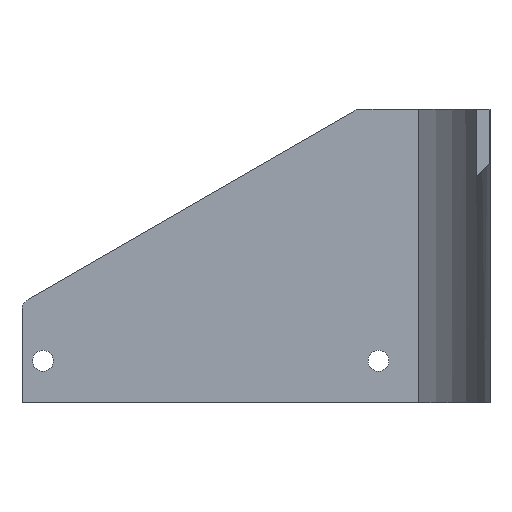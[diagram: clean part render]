
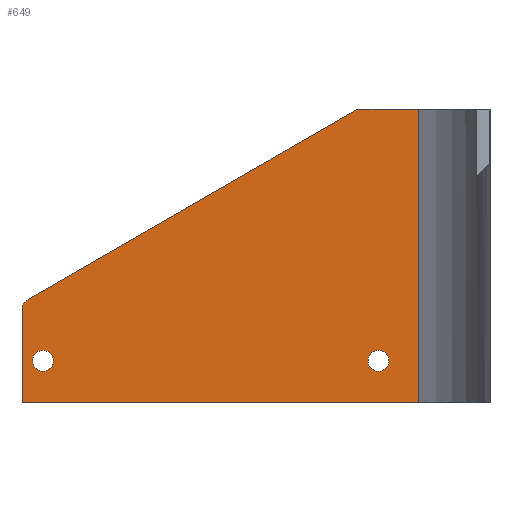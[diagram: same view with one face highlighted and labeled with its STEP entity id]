
A CAD part, left-side view. The second image highlights one B-rep face of the part: STEP entity #649.
In plain terms, the highlighted planar face has unit normal (-1, 0, 0).
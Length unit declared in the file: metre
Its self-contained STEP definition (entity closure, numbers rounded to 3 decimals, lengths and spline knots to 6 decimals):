
#76=LINE('',#1044,#131);
#77=LINE('',#1050,#132);
#78=LINE('',#1055,#133);
#79=LINE('',#1057,#134);
#80=LINE('',#1058,#135);
#131=VECTOR('',#828,1.);
#132=VECTOR('',#835,1.);
#133=VECTOR('',#838,1.);
#134=VECTOR('',#839,1.);
#135=VECTOR('',#840,1.);
#203=ORIENTED_EDGE('',*,*,#388,.T.);
#204=ORIENTED_EDGE('',*,*,#389,.T.);
#205=ORIENTED_EDGE('',*,*,#390,.F.);
#206=ORIENTED_EDGE('',*,*,#391,.F.);
#207=ORIENTED_EDGE('',*,*,#392,.T.);
#208=ORIENTED_EDGE('',*,*,#393,.T.);
#209=ORIENTED_EDGE('',*,*,#387,.F.);
#210=ORIENTED_EDGE('',*,*,#394,.F.);
#211=ORIENTED_EDGE('',*,*,#395,.F.);
#387=EDGE_CURVE('',#476,#475,#76,.T.);
#388=EDGE_CURVE('',#477,#477,#515,.T.);
#389=EDGE_CURVE('',#478,#478,#516,.T.);
#390=EDGE_CURVE('',#479,#480,#77,.F.);
#391=EDGE_CURVE('',#481,#479,#517,.T.);
#392=EDGE_CURVE('',#481,#482,#78,.T.);
#393=EDGE_CURVE('',#482,#475,#79,.T.);
#394=EDGE_CURVE('',#483,#476,#80,.T.);
#395=EDGE_CURVE('',#480,#483,#518,.T.);
#475=VERTEX_POINT('',#1041);
#476=VERTEX_POINT('',#1043);
#477=VERTEX_POINT('',#1047);
#478=VERTEX_POINT('',#1049);
#479=VERTEX_POINT('',#1051);
#480=VERTEX_POINT('',#1052);
#481=VERTEX_POINT('',#1054);
#482=VERTEX_POINT('',#1056);
#483=VERTEX_POINT('',#1059);
#515=CIRCLE('',#707,0.0025);
#516=CIRCLE('',#708,0.0025);
#517=CIRCLE('',#709,0.003);
#518=CIRCLE('',#710,0.003);
#545=EDGE_LOOP('',(#203));
#546=EDGE_LOOP('',(#204));
#547=EDGE_LOOP('',(#205,#206,#207,#208,#209,#210,#211));
#590=FACE_BOUND('',#545,.T.);
#591=FACE_BOUND('',#546,.T.);
#592=FACE_BOUND('',#547,.T.);
#631=PLANE('',#706);
#649=ADVANCED_FACE('',(#590,#591,#592),#631,.T.);
#706=AXIS2_PLACEMENT_3D('',#1045,#829,#830);
#707=AXIS2_PLACEMENT_3D('',#1046,#831,#832);
#708=AXIS2_PLACEMENT_3D('',#1048,#833,#834);
#709=AXIS2_PLACEMENT_3D('',#1053,#836,#837);
#710=AXIS2_PLACEMENT_3D('',#1060,#841,#842);
#828=DIRECTION('',(0.,0.,-1.));
#829=DIRECTION('',(-1.,0.,0.));
#830=DIRECTION('',(0.,1.,0.));
#831=DIRECTION('',(1.,0.,0.));
#832=DIRECTION('',(0.,1.,0.));
#833=DIRECTION('',(1.,0.,0.));
#834=DIRECTION('',(0.,1.,0.));
#835=DIRECTION('',(0.,0.866,-0.5));
#836=DIRECTION('',(1.,0.,0.));
#837=DIRECTION('',(0.,1.,0.));
#838=DIRECTION('',(0.,0.,-1.));
#839=DIRECTION('',(0.,-1.,0.));
#840=DIRECTION('',(0.,-1.,0.));
#841=DIRECTION('',(1.,0.,0.));
#842=DIRECTION('',(0.,1.,0.));
#1041=CARTESIAN_POINT('',(0.0544,-0.0095,0.005));
#1043=CARTESIAN_POINT('',(0.0544,-0.0095,0.075));
#1044=CARTESIAN_POINT('',(0.0544,-0.0095,0.075));
#1045=CARTESIAN_POINT('',(0.0544,0.03775,0.075));
#1046=CARTESIAN_POINT('',(0.0544,0.08,0.015));
#1047=CARTESIAN_POINT('',(0.0544,0.0825,0.015));
#1048=CARTESIAN_POINT('',(0.0544,0.,0.015));
#1049=CARTESIAN_POINT('',(0.0544,0.0025,0.015));
#1050=CARTESIAN_POINT('',(0.0544,0.029563,0.060819));
#1051=CARTESIAN_POINT('',(0.0544,0.0835,0.029678));
#1052=CARTESIAN_POINT('',(0.0544,0.005696,0.074598));
#1053=CARTESIAN_POINT('',(0.0544,0.082,0.02708));
#1054=CARTESIAN_POINT('',(0.0544,0.085,0.02708));
#1055=CARTESIAN_POINT('',(0.0544,0.085,0.075));
#1056=CARTESIAN_POINT('',(0.0544,0.085,0.005));
#1057=CARTESIAN_POINT('',(0.0544,0.03775,0.005));
#1058=CARTESIAN_POINT('',(0.0544,0.03775,0.075));
#1059=CARTESIAN_POINT('',(0.0544,0.004196,0.075));
#1060=CARTESIAN_POINT('',(0.0544,0.004196,0.072));
